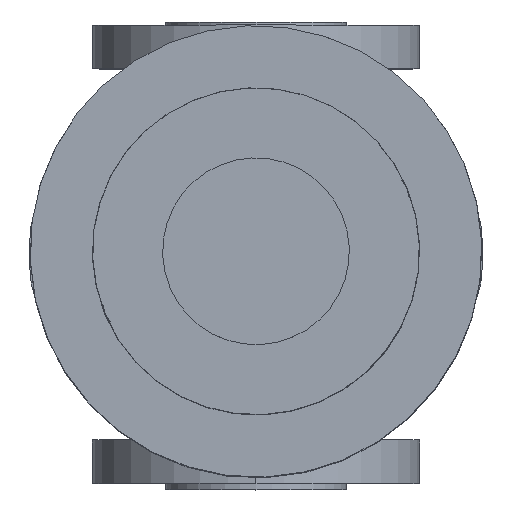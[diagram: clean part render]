
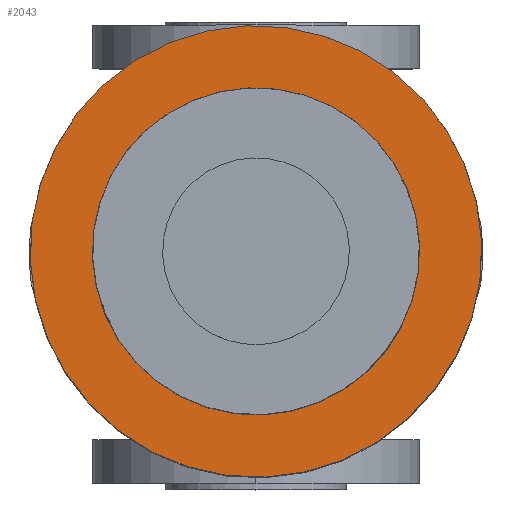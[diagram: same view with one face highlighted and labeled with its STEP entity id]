
A CAD part, top view. The second image highlights one B-rep face of the part: STEP entity #2043.
In plain terms, the highlighted planar face has unit normal (0, 0, 1).
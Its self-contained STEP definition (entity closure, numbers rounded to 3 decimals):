
#59 = VERTEX_POINT ( 'NONE', #1884 ) ;
#385 = ORIENTED_EDGE ( 'NONE', *, *, #2926, .F. ) ;
#767 = CIRCLE ( 'NONE', #3545, 52.5 ) ;
#811 = AXIS2_PLACEMENT_3D ( 'NONE', #2588, #5958, #5907 ) ;
#1113 = EDGE_LOOP ( 'NONE', ( #5887, #4827 ) ) ;
#1884 = CARTESIAN_POINT ( 'NONE',  ( 121.004, -154.909, 44. ) ) ;
#2025 = CARTESIAN_POINT ( 'NONE',  ( 139.421, -147.281, 44. ) ) ;
#2043 = ADVANCED_FACE ( 'NONE', ( #6839, #2753 ), #5151, .F. ) ;
#2363 = CIRCLE ( 'NONE', #9849, 72.434 ) ;
#2588 = CARTESIAN_POINT ( 'NONE',  ( 72.5, -175., 44. ) ) ;
#2753 = FACE_BOUND ( 'NONE', #9157, .T. ) ;
#2926 = EDGE_CURVE ( 'NONE', #59, #10147, #767, .T. ) ;
#3368 = DIRECTION ( 'NONE',  ( 0., 0., 1. ) ) ;
#3425 = DIRECTION ( 'NONE',  ( -0.924, -0.383, 0. ) ) ;
#3545 = AXIS2_PLACEMENT_3D ( 'NONE', #7470, #3368, #3425 ) ;
#3563 = CARTESIAN_POINT ( 'NONE',  ( 5.579, -202.719, 44. ) ) ;
#3871 = AXIS2_PLACEMENT_3D ( 'NONE', #3563, #5253, #8586 ) ;
#4010 = DIRECTION ( 'NONE',  ( -0.924, -0.383, 0. ) ) ;
#4597 = DIRECTION ( 'NONE',  ( -0.924, -0.383, 0. ) ) ;
#4827 = ORIENTED_EDGE ( 'NONE', *, *, #5184, .T. ) ;
#5151 = PLANE ( 'NONE',  #3871 ) ;
#5184 = EDGE_CURVE ( 'NONE', #8192, #9766, #2363, .T. ) ;
#5253 = DIRECTION ( 'NONE',  ( 0., 0., -1. ) ) ;
#5346 = CIRCLE ( 'NONE', #7091, 72.434 ) ;
#5497 = CIRCLE ( 'NONE', #811, 52.5 ) ;
#5528 = ORIENTED_EDGE ( 'NONE', *, *, #5727, .F. ) ;
#5692 = DIRECTION ( 'NONE',  ( 0., 0., 1. ) ) ;
#5727 = EDGE_CURVE ( 'NONE', #10147, #59, #5497, .T. ) ;
#5887 = ORIENTED_EDGE ( 'NONE', *, *, #8508, .T. ) ;
#5907 = DIRECTION ( 'NONE',  ( -0.924, -0.383, 0. ) ) ;
#5958 = DIRECTION ( 'NONE',  ( 0., 0., 1. ) ) ;
#6839 = FACE_OUTER_BOUND ( 'NONE', #1113, .T. ) ;
#7091 = AXIS2_PLACEMENT_3D ( 'NONE', #8738, #10423, #4597 ) ;
#7470 = CARTESIAN_POINT ( 'NONE',  ( 72.5, -175., 44. ) ) ;
#8192 = VERTEX_POINT ( 'NONE', #2025 ) ;
#8508 = EDGE_CURVE ( 'NONE', #9766, #8192, #5346, .T. ) ;
#8586 = DIRECTION ( 'NONE',  ( 0., -1., 0. ) ) ;
#8738 = CARTESIAN_POINT ( 'NONE',  ( 72.5, -175., 44. ) ) ;
#9157 = EDGE_LOOP ( 'NONE', ( #385, #5528 ) ) ;
#9610 = CARTESIAN_POINT ( 'NONE',  ( 23.996, -195.091, 44. ) ) ;
#9766 = VERTEX_POINT ( 'NONE', #9941 ) ;
#9849 = AXIS2_PLACEMENT_3D ( 'NONE', #10705, #5692, #4010 ) ;
#9941 = CARTESIAN_POINT ( 'NONE',  ( 5.579, -202.719, 44. ) ) ;
#10147 = VERTEX_POINT ( 'NONE', #9610 ) ;
#10423 = DIRECTION ( 'NONE',  ( 0., 0., 1. ) ) ;
#10705 = CARTESIAN_POINT ( 'NONE',  ( 72.5, -175., 44. ) ) ;
